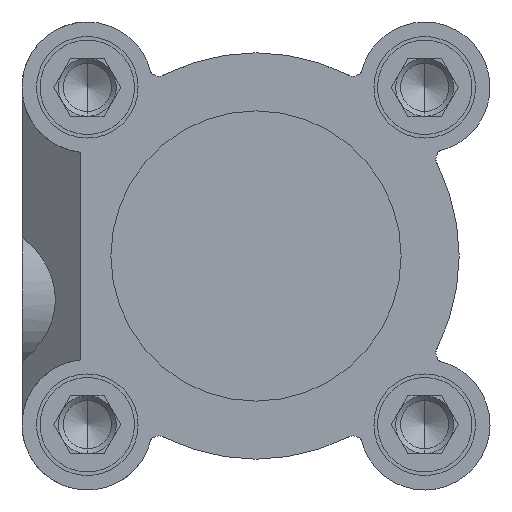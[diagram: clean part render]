
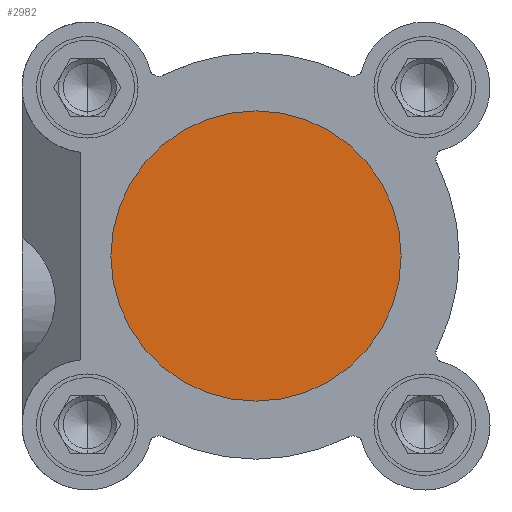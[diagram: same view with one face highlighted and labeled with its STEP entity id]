
A CAD part, left-side view. The second image highlights one B-rep face of the part: STEP entity #2982.
In plain terms, the highlighted planar face has unit normal (-1, 0, 0).
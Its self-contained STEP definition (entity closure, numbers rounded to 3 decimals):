
#246 = CARTESIAN_POINT ( 'NONE',  ( -310., 0., 0. ) ) ;
#877 = AXIS2_PLACEMENT_3D ( 'NONE', #7548, #3319, #8480 ) ;
#1158 = CIRCLE ( 'NONE', #10802, 20. ) ;
#1520 = CARTESIAN_POINT ( 'NONE',  ( -310., 0., -20. ) ) ;
#1863 = EDGE_CURVE ( 'NONE', #4609, #6854, #1158, .T. ) ;
#2154 = DIRECTION ( 'NONE',  ( 0., 0., 1. ) ) ;
#2303 = DIRECTION ( 'NONE',  ( 0., 0., -1. ) ) ;
#2982 = ADVANCED_FACE ( 'NONE', ( #11126 ), #3176, .F. ) ;
#3176 = PLANE ( 'NONE',  #3746 ) ;
#3319 = DIRECTION ( 'NONE',  ( -1., 0., 0. ) ) ;
#3746 = AXIS2_PLACEMENT_3D ( 'NONE', #6711, #4098, #2303 ) ;
#4098 = DIRECTION ( 'NONE',  ( 1., 0., 0. ) ) ;
#4609 = VERTEX_POINT ( 'NONE', #5120 ) ;
#5120 = CARTESIAN_POINT ( 'NONE',  ( -310., 0., 20. ) ) ;
#5506 = CIRCLE ( 'NONE', #877, 20. ) ;
#6467 = ORIENTED_EDGE ( 'NONE', *, *, #9729, .T. ) ;
#6505 = EDGE_LOOP ( 'NONE', ( #9339, #6467 ) ) ;
#6711 = CARTESIAN_POINT ( 'NONE',  ( -310., 20., 0. ) ) ;
#6854 = VERTEX_POINT ( 'NONE', #1520 ) ;
#7548 = CARTESIAN_POINT ( 'NONE',  ( -310., 0., 0. ) ) ;
#8480 = DIRECTION ( 'NONE',  ( 0., 0., 1. ) ) ;
#9339 = ORIENTED_EDGE ( 'NONE', *, *, #1863, .T. ) ;
#9729 = EDGE_CURVE ( 'NONE', #6854, #4609, #5506, .T. ) ;
#10111 = DIRECTION ( 'NONE',  ( -1., 0., 0. ) ) ;
#10802 = AXIS2_PLACEMENT_3D ( 'NONE', #246, #10111, #2154 ) ;
#11126 = FACE_OUTER_BOUND ( 'NONE', #6505, .T. ) ;
